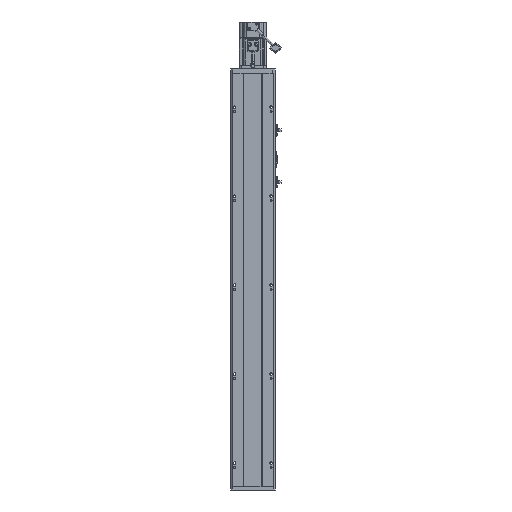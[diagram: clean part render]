
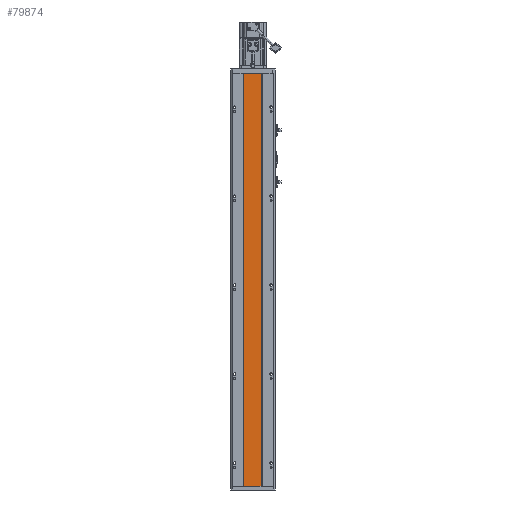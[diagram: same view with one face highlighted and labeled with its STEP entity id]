
A CAD part, front view. The second image highlights one B-rep face of the part: STEP entity #79874.
In plain terms, the highlighted planar face has unit normal (0, -1, 0).
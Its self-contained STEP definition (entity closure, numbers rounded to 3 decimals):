
#863 = CARTESIAN_POINT ( 'NONE',  ( 20., 0., -928.5 ) ) ;
#3704 = EDGE_LOOP ( 'NONE', ( #75810, #78961, #79693, #79978 ) ) ;
#11923 = VECTOR ( 'NONE', #39773, 1000. ) ;
#13388 = LINE ( 'NONE', #91785, #55809 ) ;
#14668 = DIRECTION ( 'NONE',  ( -1., 0., 0. ) ) ;
#19276 = VERTEX_POINT ( 'NONE', #48643 ) ;
#22797 = VERTEX_POINT ( 'NONE', #69291 ) ;
#25017 = LINE ( 'NONE', #75582, #81225 ) ;
#29644 = DIRECTION ( 'NONE',  ( -1., 0., 0. ) ) ;
#30610 = LINE ( 'NONE', #91024, #87032 ) ;
#31049 = PLANE ( 'NONE',  #42431 ) ;
#32566 = CARTESIAN_POINT ( 'NONE',  ( -20., 0., -928.5 ) ) ;
#38511 = DIRECTION ( 'NONE',  ( -1., 0., 0. ) ) ;
#39773 = DIRECTION ( 'NONE',  ( 0., 0., 1. ) ) ;
#42431 = AXIS2_PLACEMENT_3D ( 'NONE', #863, #84717, #38511 ) ;
#42976 = VERTEX_POINT ( 'NONE', #86421 ) ;
#45500 = DIRECTION ( 'NONE',  ( 0., 0., 1. ) ) ;
#46505 = VERTEX_POINT ( 'NONE', #66551 ) ;
#48643 = CARTESIAN_POINT ( 'NONE',  ( 20., 0., -928.5 ) ) ;
#55809 = VECTOR ( 'NONE', #45500, 1000. ) ;
#64740 = FACE_OUTER_BOUND ( 'NONE', #3704, .T. ) ;
#66551 = CARTESIAN_POINT ( 'NONE',  ( 20., 0., 0. ) ) ;
#67753 = LINE ( 'NONE', #32566, #11923 ) ;
#69291 = CARTESIAN_POINT ( 'NONE',  ( -20., 0., 0. ) ) ;
#75582 = CARTESIAN_POINT ( 'NONE',  ( 20., 0., 0. ) ) ;
#75810 = ORIENTED_EDGE ( 'NONE', *, *, #77194, .T. ) ;
#76731 = EDGE_CURVE ( 'NONE', #19276, #46505, #13388, .T. ) ;
#77194 = EDGE_CURVE ( 'NONE', #46505, #22797, #25017, .T. ) ;
#78211 = EDGE_CURVE ( 'NONE', #42976, #22797, #67753, .T. ) ;
#78531 = EDGE_CURVE ( 'NONE', #19276, #42976, #30610, .T. ) ;
#78961 = ORIENTED_EDGE ( 'NONE', *, *, #78211, .F. ) ;
#79693 = ORIENTED_EDGE ( 'NONE', *, *, #78531, .F. ) ;
#79874 = ADVANCED_FACE ( 'NONE', ( #64740 ), #31049, .F. ) ;
#79978 = ORIENTED_EDGE ( 'NONE', *, *, #76731, .T. ) ;
#81225 = VECTOR ( 'NONE', #14668, 1000. ) ;
#84717 = DIRECTION ( 'NONE',  ( 0., 1., 0. ) ) ;
#86421 = CARTESIAN_POINT ( 'NONE',  ( -20., 0., -928.5 ) ) ;
#87032 = VECTOR ( 'NONE', #29644, 1000. ) ;
#91024 = CARTESIAN_POINT ( 'NONE',  ( 20., 0., -928.5 ) ) ;
#91785 = CARTESIAN_POINT ( 'NONE',  ( 20., 0., -928.5 ) ) ;
